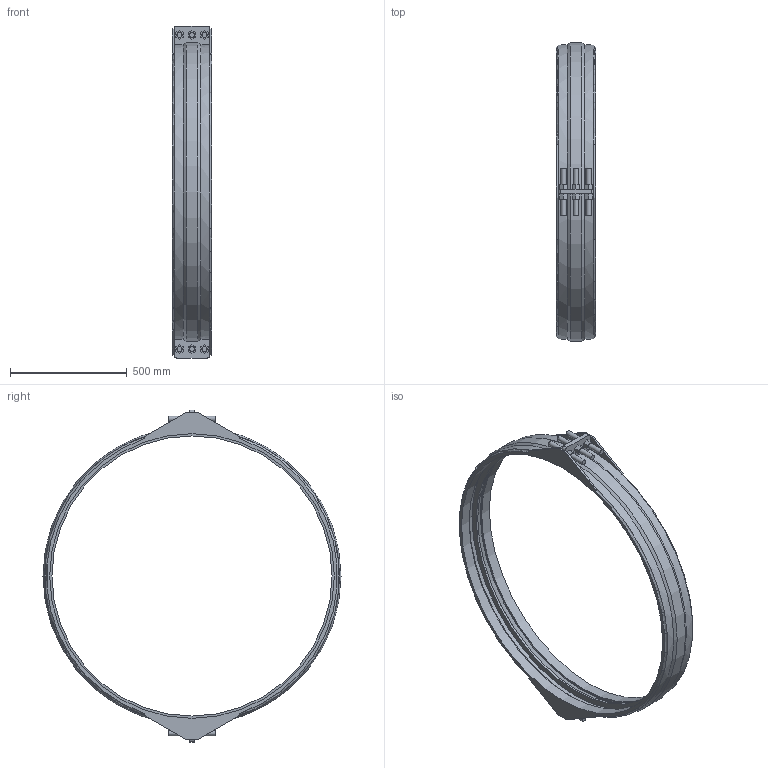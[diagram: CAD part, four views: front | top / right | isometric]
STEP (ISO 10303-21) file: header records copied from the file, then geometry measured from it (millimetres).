
FILE_DESCRIPTION(/* description */ ('VIC SS RESTRAINED COUPLING STYLE 234S (FLEX) (BRS)','CAx-IF Rec.Pracs.---Representation and Presentation of Product Manufacturing Information (PMI)---4.0---2014-10-13'),/* implementation_level */ '2;1');
FILE_NAME(/* name */ 'C:\Users\kkamble\AppData\Roaming\Autodesk\ApplicationPlugins\Back Up\Victaulic_VBSP_Coupling Flexible Restrained_Style 234S (BRS)\Victaulic_VBSP_Coupling Flexible Restrained_Style 234S (BRS)_150psi_48 (1200).stp',/* time_stamp */ '2020-09-22T18:42:20+05:00',/* author */ ('Vjadhav'),/* organization */ ('Victaulic'),/* preprocessor_version */ 'ST-DEVELOPER v17.2',/* originating_system */ 'Autodesk Inventor 2019',/* authorisation */ '');
FILE_SCHEMA (('AP242_MANAGED_MODEL_BASED_3D_ENGINEERING_MIM_LF { 1 0 10303 442 1 1 4 }'));
Length unit declared in the file: inch
Products named in the file (1): Style_234S_Type_2_150psi-48.0
Bounding box: 168.4 x 1277.04 x 1422.4 mm (x, y, z)
Volume: 13924049.3 mm3; surface area: 1996843.9 mm2
Topology: 1 solids, 1 shells, 191 faces, 477 edges, 316 vertices
Faces by surface type: plane 136, cylinder 43, torus 6, cone 6
Full cylindrical faces by diameter (mm): 22.225 x12, 1200.15 x1, 1219.2 x2, 1251.645 x2
Entity records: 6178 total; most frequent: CARTESIAN_POINT 1210, DIRECTION 973, ORIENTED_EDGE 954, EDGE_CURVE 477, LINE 343, VECTOR 343, VERTEX_POINT 316, AXIS2_PLACEMENT_3D 315
